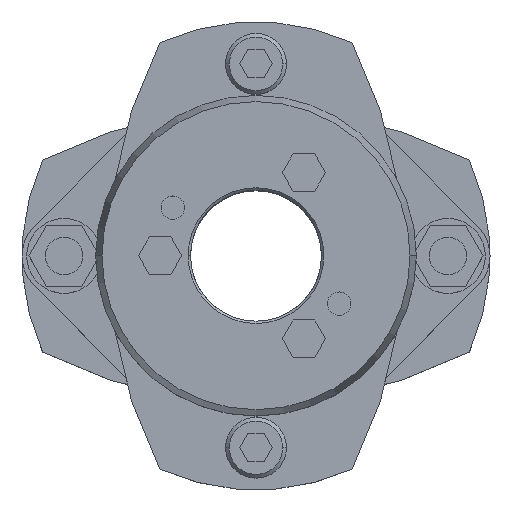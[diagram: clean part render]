
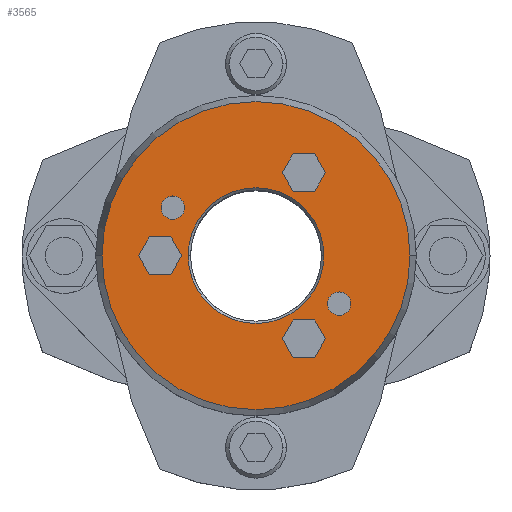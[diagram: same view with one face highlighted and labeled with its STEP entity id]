
A CAD part, top view. The second image highlights one B-rep face of the part: STEP entity #3565.
In plain terms, the highlighted planar face has unit normal (0, 0, 1).
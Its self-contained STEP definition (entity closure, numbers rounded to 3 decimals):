
#1471=CARTESIAN_POINT('',(-14.5,0.,42.0));
#1472=VERTEX_POINT('',#1471);
#1488=CARTESIAN_POINT('',(14.5,0.,42.0));
#1489=VERTEX_POINT('',#1488);
#1496=CARTESIAN_POINT('',(0.,0.,42.0));
#1497=DIRECTION('',(0.0,0.0,1.0));
#1498=DIRECTION('',(-1.0,0.0,0.0));
#1499=AXIS2_PLACEMENT_3D('',#1496,#1497,#1498);
#1500=CIRCLE('',#1499,14.5);
#1501=EDGE_CURVE('',#1489,#1472,#1500,.T.);
#1659=CARTESIAN_POINT('',(32.91,0.,42.0));
#1660=VERTEX_POINT('',#1659);
#1667=CARTESIAN_POINT('',(-32.91,0.,42.0));
#1668=VERTEX_POINT('',#1667);
#1669=CARTESIAN_POINT('',(0.,0.,42.0));
#1670=DIRECTION('',(0.0,0.0,-1.0));
#1671=DIRECTION('',(1.0,0.0,0.0));
#1672=AXIS2_PLACEMENT_3D('',#1669,#1670,#1671);
#1673=CIRCLE('',#1672,32.91);
#1674=EDGE_CURVE('',#1660,#1668,#1673,.T.);
#1917=CARTESIAN_POINT('',(15.254,-10.25,42.0));
#1918=VERTEX_POINT('',#1917);
#1934=CARTESIAN_POINT('',(20.254,-10.25,42.0));
#1935=VERTEX_POINT('',#1934);
#1942=CARTESIAN_POINT('',(17.754,-10.25,42.0));
#1943=DIRECTION('',(0.0,0.0,-1.0));
#1944=DIRECTION('',(-1.0,0.0,0.0));
#1945=AXIS2_PLACEMENT_3D('',#1942,#1943,#1944);
#1946=CIRCLE('',#1945,2.5);
#1947=EDGE_CURVE('',#1918,#1935,#1946,.T.);
#1959=CARTESIAN_POINT('',(-20.254,10.25,42.0));
#1960=VERTEX_POINT('',#1959);
#1976=CARTESIAN_POINT('',(-15.254,10.25,42.0));
#1977=VERTEX_POINT('',#1976);
#1984=CARTESIAN_POINT('',(-17.754,10.25,42.0));
#1985=DIRECTION('',(0.0,0.0,-1.0));
#1986=DIRECTION('',(-1.0,0.0,0.0));
#1987=AXIS2_PLACEMENT_3D('',#1984,#1985,#1986);
#1988=CIRCLE('',#1987,2.5);
#1989=EDGE_CURVE('',#1960,#1977,#1988,.T.);
#2072=CARTESIAN_POINT('',(-17.754,10.25,42.0));
#2073=DIRECTION('',(0.0,0.0,-1.0));
#2074=DIRECTION('',(-1.0,0.0,0.0));
#2075=AXIS2_PLACEMENT_3D('',#2072,#2073,#2074);
#2076=CIRCLE('',#2075,2.5);
#2077=EDGE_CURVE('',#1977,#1960,#2076,.T.);
#2106=CARTESIAN_POINT('',(17.754,-10.25,42.0));
#2107=DIRECTION('',(0.0,0.0,-1.0));
#2108=DIRECTION('',(-1.0,0.0,0.0));
#2109=AXIS2_PLACEMENT_3D('',#2106,#2107,#2108);
#2110=CIRCLE('',#2109,2.5);
#2111=EDGE_CURVE('',#1935,#1918,#2110,.T.);
#2149=CARTESIAN_POINT('',(5.631,17.754,42.0));
#2150=VERTEX_POINT('',#2149);
#2157=CARTESIAN_POINT('',(7.941,13.754,42.0));
#2158=VERTEX_POINT('',#2157);
#2159=CARTESIAN_POINT('',(7.941,13.754,42.0));
#2160=DIRECTION('',(-0.5,0.866,0.0));
#2161=VECTOR('',#2160,4.619);
#2162=LINE('',#2159,#2161);
#2163=EDGE_CURVE('',#2158,#2150,#2162,.T.);
#2187=CARTESIAN_POINT('',(7.941,21.754,42.0));
#2188=VERTEX_POINT('',#2187);
#2195=CARTESIAN_POINT('',(5.631,17.754,42.0));
#2196=DIRECTION('',(0.5,0.866,0.0));
#2197=VECTOR('',#2196,4.619);
#2198=LINE('',#2195,#2197);
#2199=EDGE_CURVE('',#2150,#2188,#2198,.T.);
#2218=CARTESIAN_POINT('',(12.559,21.754,42.0));
#2219=VERTEX_POINT('',#2218);
#2226=CARTESIAN_POINT('',(7.941,21.754,42.0));
#2227=DIRECTION('',(1.0,0.0,0.0));
#2228=VECTOR('',#2227,4.619);
#2229=LINE('',#2226,#2228);
#2230=EDGE_CURVE('',#2188,#2219,#2229,.T.);
#2249=CARTESIAN_POINT('',(14.869,17.754,42.0));
#2250=VERTEX_POINT('',#2249);
#2257=CARTESIAN_POINT('',(12.559,21.754,42.0));
#2258=DIRECTION('',(0.5,-0.866,0.0));
#2259=VECTOR('',#2258,4.619);
#2260=LINE('',#2257,#2259);
#2261=EDGE_CURVE('',#2219,#2250,#2260,.T.);
#2280=CARTESIAN_POINT('',(12.559,13.754,42.0));
#2281=VERTEX_POINT('',#2280);
#2288=CARTESIAN_POINT('',(14.869,17.754,42.0));
#2289=DIRECTION('',(-0.5,-0.866,0.0));
#2290=VECTOR('',#2289,4.619);
#2291=LINE('',#2288,#2290);
#2292=EDGE_CURVE('',#2250,#2281,#2291,.T.);
#2310=CARTESIAN_POINT('',(12.559,13.754,42.0));
#2311=DIRECTION('',(-1.0,0.0,0.0));
#2312=VECTOR('',#2311,4.619);
#2313=LINE('',#2310,#2312);
#2314=EDGE_CURVE('',#2281,#2158,#2313,.T.);
#2349=CARTESIAN_POINT('',(-25.119,0.,42.0));
#2350=VERTEX_POINT('',#2349);
#2357=CARTESIAN_POINT('',(-22.809,-4.,42.0));
#2358=VERTEX_POINT('',#2357);
#2359=CARTESIAN_POINT('',(-22.809,-4.,42.0));
#2360=DIRECTION('',(-0.5,0.866,0.0));
#2361=VECTOR('',#2360,4.619);
#2362=LINE('',#2359,#2361);
#2363=EDGE_CURVE('',#2358,#2350,#2362,.T.);
#2387=CARTESIAN_POINT('',(-22.809,4.,42.0));
#2388=VERTEX_POINT('',#2387);
#2395=CARTESIAN_POINT('',(-25.119,0.,42.0));
#2396=DIRECTION('',(0.5,0.866,0.0));
#2397=VECTOR('',#2396,4.619);
#2398=LINE('',#2395,#2397);
#2399=EDGE_CURVE('',#2350,#2388,#2398,.T.);
#2418=CARTESIAN_POINT('',(-18.191,4.,42.0));
#2419=VERTEX_POINT('',#2418);
#2426=CARTESIAN_POINT('',(-22.809,4.,42.0));
#2427=DIRECTION('',(1.0,0.0,0.0));
#2428=VECTOR('',#2427,4.619);
#2429=LINE('',#2426,#2428);
#2430=EDGE_CURVE('',#2388,#2419,#2429,.T.);
#2449=CARTESIAN_POINT('',(-15.881,0.,42.0));
#2450=VERTEX_POINT('',#2449);
#2457=CARTESIAN_POINT('',(-18.191,4.,42.0));
#2458=DIRECTION('',(0.5,-0.866,0.0));
#2459=VECTOR('',#2458,4.619);
#2460=LINE('',#2457,#2459);
#2461=EDGE_CURVE('',#2419,#2450,#2460,.T.);
#2480=CARTESIAN_POINT('',(-18.191,-4.,42.0));
#2481=VERTEX_POINT('',#2480);
#2488=CARTESIAN_POINT('',(-15.881,0.,42.0));
#2489=DIRECTION('',(-0.5,-0.866,0.0));
#2490=VECTOR('',#2489,4.619);
#2491=LINE('',#2488,#2490);
#2492=EDGE_CURVE('',#2450,#2481,#2491,.T.);
#2510=CARTESIAN_POINT('',(-18.191,-4.,42.0));
#2511=DIRECTION('',(-1.0,0.0,0.0));
#2512=VECTOR('',#2511,4.619);
#2513=LINE('',#2510,#2512);
#2514=EDGE_CURVE('',#2481,#2358,#2513,.T.);
#2549=CARTESIAN_POINT('',(5.631,-17.754,42.0));
#2550=VERTEX_POINT('',#2549);
#2557=CARTESIAN_POINT('',(7.941,-21.754,42.0));
#2558=VERTEX_POINT('',#2557);
#2559=CARTESIAN_POINT('',(7.941,-21.754,42.0));
#2560=DIRECTION('',(-0.5,0.866,0.0));
#2561=VECTOR('',#2560,4.619);
#2562=LINE('',#2559,#2561);
#2563=EDGE_CURVE('',#2558,#2550,#2562,.T.);
#2587=CARTESIAN_POINT('',(7.941,-13.754,42.0));
#2588=VERTEX_POINT('',#2587);
#2595=CARTESIAN_POINT('',(5.631,-17.754,42.0));
#2596=DIRECTION('',(0.5,0.866,0.0));
#2597=VECTOR('',#2596,4.619);
#2598=LINE('',#2595,#2597);
#2599=EDGE_CURVE('',#2550,#2588,#2598,.T.);
#2618=CARTESIAN_POINT('',(12.559,-13.754,42.0));
#2619=VERTEX_POINT('',#2618);
#2626=CARTESIAN_POINT('',(7.941,-13.754,42.0));
#2627=DIRECTION('',(1.0,0.0,0.0));
#2628=VECTOR('',#2627,4.619);
#2629=LINE('',#2626,#2628);
#2630=EDGE_CURVE('',#2588,#2619,#2629,.T.);
#2649=CARTESIAN_POINT('',(14.869,-17.754,42.0));
#2650=VERTEX_POINT('',#2649);
#2657=CARTESIAN_POINT('',(12.559,-13.754,42.0));
#2658=DIRECTION('',(0.5,-0.866,0.0));
#2659=VECTOR('',#2658,4.619);
#2660=LINE('',#2657,#2659);
#2661=EDGE_CURVE('',#2619,#2650,#2660,.T.);
#2680=CARTESIAN_POINT('',(12.559,-21.754,42.0));
#2681=VERTEX_POINT('',#2680);
#2688=CARTESIAN_POINT('',(14.869,-17.754,42.0));
#2689=DIRECTION('',(-0.5,-0.866,0.0));
#2690=VECTOR('',#2689,4.619);
#2691=LINE('',#2688,#2690);
#2692=EDGE_CURVE('',#2650,#2681,#2691,.T.);
#2710=CARTESIAN_POINT('',(12.559,-21.754,42.0));
#2711=DIRECTION('',(-1.0,0.0,0.0));
#2712=VECTOR('',#2711,4.619);
#2713=LINE('',#2710,#2712);
#2714=EDGE_CURVE('',#2681,#2558,#2713,.T.);
#3504=CARTESIAN_POINT('',(0.,0.,42.0));
#3505=DIRECTION('',(0.0,0.0,-1.0));
#3506=DIRECTION('',(1.0,0.0,0.0));
#3507=AXIS2_PLACEMENT_3D('',#3504,#3505,#3506);
#3508=CIRCLE('',#3507,32.91);
#3509=EDGE_CURVE('',#1668,#1660,#3508,.T.);
#3514=CARTESIAN_POINT('',(-3.114,0.,42.0));
#3515=DIRECTION('',(0.0,0.0,1.0));
#3516=DIRECTION('',(-1.0,0.0,0.0));
#3517=AXIS2_PLACEMENT_3D('',#3514,#3515,#3516);
#3518=PLANE('',#3517);
#3519=ORIENTED_EDGE('',*,*,#3509,.F.);
#3520=ORIENTED_EDGE('',*,*,#1674,.F.);
#3521=EDGE_LOOP('',(#3519,#3520));
#3522=FACE_OUTER_BOUND('',#3521,.T.);
#3523=ORIENTED_EDGE('',*,*,#1989,.T.);
#3524=ORIENTED_EDGE('',*,*,#2077,.T.);
#3525=EDGE_LOOP('',(#3523,#3524));
#3526=FACE_BOUND('',#3525,.T.);
#3527=ORIENTED_EDGE('',*,*,#1947,.T.);
#3528=ORIENTED_EDGE('',*,*,#2111,.T.);
#3529=EDGE_LOOP('',(#3527,#3528));
#3530=FACE_BOUND('',#3529,.T.);
#3531=ORIENTED_EDGE('',*,*,#2163,.T.);
#3532=ORIENTED_EDGE('',*,*,#2199,.T.);
#3533=ORIENTED_EDGE('',*,*,#2230,.T.);
#3534=ORIENTED_EDGE('',*,*,#2261,.T.);
#3535=ORIENTED_EDGE('',*,*,#2292,.T.);
#3536=ORIENTED_EDGE('',*,*,#2314,.T.);
#3537=EDGE_LOOP('',(#3531,#3532,#3533,#3534,#3535,#3536));
#3538=FACE_BOUND('',#3537,.T.);
#3539=ORIENTED_EDGE('',*,*,#2363,.T.);
#3540=ORIENTED_EDGE('',*,*,#2399,.T.);
#3541=ORIENTED_EDGE('',*,*,#2430,.T.);
#3542=ORIENTED_EDGE('',*,*,#2461,.T.);
#3543=ORIENTED_EDGE('',*,*,#2492,.T.);
#3544=ORIENTED_EDGE('',*,*,#2514,.T.);
#3545=EDGE_LOOP('',(#3539,#3540,#3541,#3542,#3543,#3544));
#3546=FACE_BOUND('',#3545,.T.);
#3547=ORIENTED_EDGE('',*,*,#2563,.T.);
#3548=ORIENTED_EDGE('',*,*,#2599,.T.);
#3549=ORIENTED_EDGE('',*,*,#2630,.T.);
#3550=ORIENTED_EDGE('',*,*,#2661,.T.);
#3551=ORIENTED_EDGE('',*,*,#2692,.T.);
#3552=ORIENTED_EDGE('',*,*,#2714,.T.);
#3553=EDGE_LOOP('',(#3547,#3548,#3549,#3550,#3551,#3552));
#3554=FACE_BOUND('',#3553,.T.);
#3555=ORIENTED_EDGE('',*,*,#1501,.F.);
#3556=CARTESIAN_POINT('',(0.,0.,42.0));
#3557=DIRECTION('',(0.0,0.0,1.0));
#3558=DIRECTION('',(-1.0,0.0,0.0));
#3559=AXIS2_PLACEMENT_3D('',#3556,#3557,#3558);
#3560=CIRCLE('',#3559,14.5);
#3561=EDGE_CURVE('',#1472,#1489,#3560,.T.);
#3562=ORIENTED_EDGE('',*,*,#3561,.F.);
#3563=EDGE_LOOP('',(#3555,#3562));
#3564=FACE_BOUND('',#3563,.T.);
#3565=ADVANCED_FACE('',(#3522,#3526,#3530,#3538,#3546,#3554,#3564),#3518,.T.);
